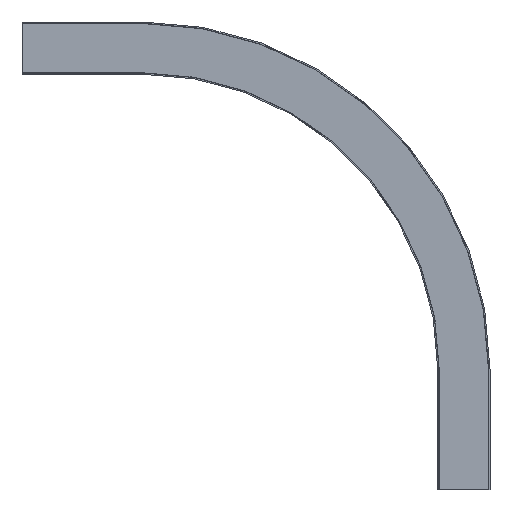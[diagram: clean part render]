
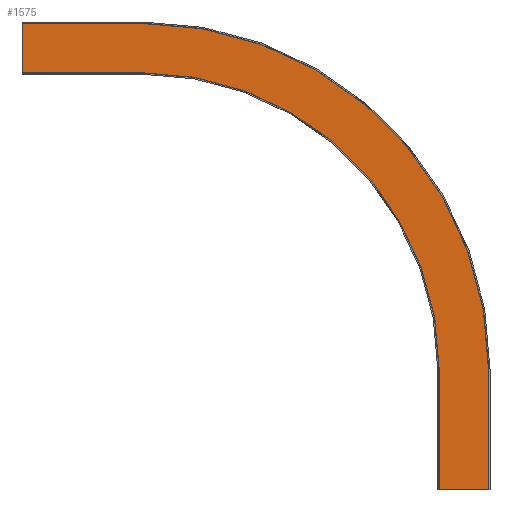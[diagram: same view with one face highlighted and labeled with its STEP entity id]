
A CAD part, front view. The second image highlights one B-rep face of the part: STEP entity #1575.
In plain terms, the highlighted planar face has unit normal (0, -1, 0).
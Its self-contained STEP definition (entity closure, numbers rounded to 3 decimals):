
#1 = CARTESIAN_POINT ( 'NONE',  ( 30.65, -42., 150. ) ) ;
#20 = EDGE_CURVE ( 'Edge42', #274, #2123, #2796, .T. ) ;
#34 = DIRECTION ( 'NONE',  ( 0., 0., -1. ) ) ;
#48 = DIRECTION ( 'NONE',  ( 0., -1., 0. ) ) ;
#229 = ORIENTED_EDGE ( 'NONE', *, *, #2917, .F. ) ;
#274 = VERTEX_POINT ( 'NONE', #461 ) ;
#283 = CIRCLE ( 'NONE', #1415, 430.65 ) ;
#343 = ORIENTED_EDGE ( 'NONE', *, *, #20, .T. ) ;
#372 = CARTESIAN_POINT ( 'NONE',  ( 30.65, -42., 150. ) ) ;
#461 = CARTESIAN_POINT ( 'NONE',  ( -400., -42., 580.65 ) ) ;
#504 = CARTESIAN_POINT ( 'NONE',  ( -30.65, -42., 0. ) ) ;
#596 = LINE ( 'NONE', #2218, #3067 ) ;
#629 = DIRECTION ( 'NONE',  ( 0., -1., 0. ) ) ;
#673 = LINE ( 'NONE', #372, #1147 ) ;
#748 = CARTESIAN_POINT ( 'NONE',  ( -550., -42., 519.35 ) ) ;
#829 = VECTOR ( 'NONE', #2694, 1000. ) ;
#842 = CARTESIAN_POINT ( 'NONE',  ( -400., -42., 580.65 ) ) ;
#882 = CARTESIAN_POINT ( 'NONE',  ( -400., -42., 150. ) ) ;
#955 = ORIENTED_EDGE ( 'NONE', *, *, #1659, .F. ) ;
#994 = EDGE_CURVE ( 'NONE', #2743, #2360, #2149, .T. ) ;
#1003 = DIRECTION ( 'NONE',  ( 0., 0., -1. ) ) ;
#1061 = EDGE_CURVE ( 'Edge18', #1882, #274, #283, .T. ) ;
#1109 = ORIENTED_EDGE ( 'NONE', *, *, #2374, .F. ) ;
#1147 = VECTOR ( 'NONE', #2317, 1000. ) ;
#1183 = LINE ( 'NONE', #1223, #2988 ) ;
#1212 = CARTESIAN_POINT ( 'NONE',  ( 30.65, -42., 0. ) ) ;
#1223 = CARTESIAN_POINT ( 'NONE',  ( -400., -42., 519.35 ) ) ;
#1336 = DIRECTION ( 'NONE',  ( -1., 0., 0. ) ) ;
#1415 = AXIS2_PLACEMENT_3D ( 'NONE', #882, #629, #1854 ) ;
#1468 = PLANE ( 'NONE',  #2241 ) ;
#1517 = CARTESIAN_POINT ( 'NONE',  ( -30.65, -42., 0. ) ) ;
#1537 = CARTESIAN_POINT ( 'NONE',  ( -550., -42., 580.65 ) ) ;
#1575 = ADVANCED_FACE ( 'NONE', ( #2958 ), #1468, .T. ) ;
#1594 = CARTESIAN_POINT ( 'NONE',  ( -400., -42., 519.35 ) ) ;
#1607 = VERTEX_POINT ( 'NONE', #504 ) ;
#1659 = EDGE_CURVE ( 'NONE', #1707, #1607, #2162, .T. ) ;
#1707 = VERTEX_POINT ( 'NONE', #1212 ) ;
#1854 = DIRECTION ( 'NONE',  ( 0., 0., -1. ) ) ;
#1882 = VERTEX_POINT ( 'NONE', #1 ) ;
#1934 = VECTOR ( 'NONE', #1336, 1000. ) ;
#1966 = CARTESIAN_POINT ( 'NONE',  ( -30.65, -42., 150. ) ) ;
#2123 = VERTEX_POINT ( 'NONE', #1537 ) ;
#2148 = VECTOR ( 'NONE', #2311, 1000. ) ;
#2149 = CIRCLE ( 'NONE', #2887, 369.35 ) ;
#2162 = LINE ( 'NONE', #1517, #1934 ) ;
#2204 = CARTESIAN_POINT ( 'NONE',  ( -400., -42., 150. ) ) ;
#2218 = CARTESIAN_POINT ( 'NONE',  ( -30.65, -42., 150. ) ) ;
#2241 = AXIS2_PLACEMENT_3D ( 'NONE', #1966, #48, #2702 ) ;
#2253 = EDGE_LOOP ( 'NONE', ( #955, #1109, #2468, #343, #2747, #229, #3049, #2646 ) ) ;
#2311 = DIRECTION ( 'NONE',  ( -1., 0., 0. ) ) ;
#2317 = DIRECTION ( 'NONE',  ( 0., 0., -1. ) ) ;
#2360 = VERTEX_POINT ( 'NONE', #1594 ) ;
#2374 = EDGE_CURVE ( 'NONE', #1882, #1707, #673, .T. ) ;
#2381 = LINE ( 'NONE', #748, #829 ) ;
#2408 = DIRECTION ( 'NONE',  ( -1., 0., 0. ) ) ;
#2467 = CARTESIAN_POINT ( 'NONE',  ( -550., -42., 519.35 ) ) ;
#2468 = ORIENTED_EDGE ( 'NONE', *, *, #1061, .T. ) ;
#2486 = EDGE_CURVE ( 'NONE', #2743, #1607, #596, .T. ) ;
#2542 = EDGE_CURVE ( 'NONE', #2123, #2847, #2381, .T. ) ;
#2646 = ORIENTED_EDGE ( 'NONE', *, *, #2486, .T. ) ;
#2687 = DIRECTION ( 'NONE',  ( 0., -1., 0. ) ) ;
#2694 = DIRECTION ( 'NONE',  ( 0., 0., -1. ) ) ;
#2702 = DIRECTION ( 'NONE',  ( 1., 0., 0. ) ) ;
#2743 = VERTEX_POINT ( 'NONE', #3035 ) ;
#2747 = ORIENTED_EDGE ( 'NONE', *, *, #2542, .T. ) ;
#2796 = LINE ( 'NONE', #842, #2148 ) ;
#2847 = VERTEX_POINT ( 'NONE', #2467 ) ;
#2887 = AXIS2_PLACEMENT_3D ( 'NONE', #2204, #2687, #34 ) ;
#2917 = EDGE_CURVE ( 'NONE', #2360, #2847, #1183, .T. ) ;
#2958 = FACE_OUTER_BOUND ( 'NONE', #2253, .T. ) ;
#2988 = VECTOR ( 'NONE', #2408, 1000. ) ;
#3035 = CARTESIAN_POINT ( 'NONE',  ( -30.65, -42., 150. ) ) ;
#3049 = ORIENTED_EDGE ( 'NONE', *, *, #994, .F. ) ;
#3067 = VECTOR ( 'NONE', #1003, 1000. ) ;
